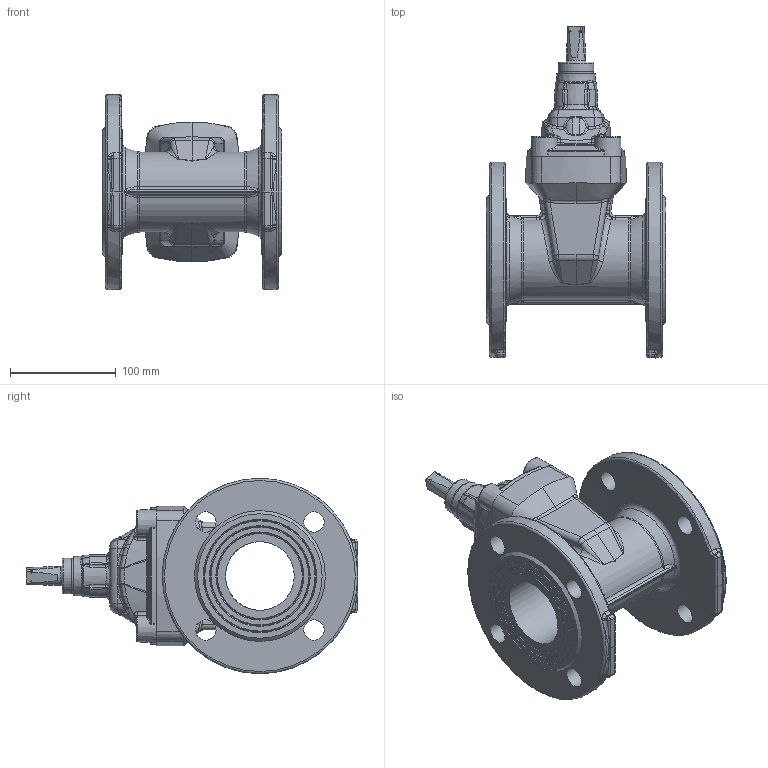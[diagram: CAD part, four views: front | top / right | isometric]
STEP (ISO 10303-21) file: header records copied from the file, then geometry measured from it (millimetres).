
FILE_DESCRIPTION(/* description */ (''),/* implementation_level */ '2;1');
FILE_NAME(/* name */ 'F4-DN65PN16.stp',/* time_stamp */ '2024-08-01T08:14:07+07:00',/* author */ ('Eva'),/* organization */ (''),/* preprocessor_version */ 'ST-DEVELOPER v20',/* originating_system */ 'Autodesk Inventor 2025',/* authorisation */ '');
FILE_SCHEMA (('AUTOMOTIVE_DESIGN { 1 0 10303 214 3 1 1 }'));
Products named in the file (7): F4-DN65PN16; ·§ёЛ DN65PN16(YZ45X99302-04-00 ); ·§ёЗ DN65PN16(YZ45X99302-02-00 Q
T450-10); Ц№НЖВЭДё DN50PN16(YZ45
X02302-09-00 ); ·АіѕГЬ·вИ¦ DN50
PN16(YZ45X02302-10-00 NBR); M10 ДЪБщЅЗФІЦщН·ВЭ¶¤ 
GB T 70.1-2000(M10ЎБ20); DN65F4·§МеГ«Еч
Assembly tree (9 placements, depth 2):
  F4-DN65PN16
    ·§ёЛ DN65PN16(YZ45X99302-04-00 )
    ·§ёЗ DN65PN16(YZ45X99302-02-00 Q
T450-10)
    Ц№НЖВЭДё DN50PN16(YZ45
X02302-09-00 )
    ·АіѕГЬ·вИ¦ DN50
PN16(YZ45X02302-10-00 NBR)
    M10 ДЪБщЅЗФІЦщН·ВЭ¶¤ 
GB T 70.1-2000(M10ЎБ20)  x4
    DN65F4·§МеГ«Еч
Bounding box: 170 x 314.7 x 185 mm (x, y, z)
Volume: 1254042 mm3; surface area: 298535.2 mm2
Topology: 9 solids, 9 shells, 1036 faces, 2461 edges, 1445 vertices
Faces by surface type: bspline 529, plane 164, cylinder 156, cone 90, torus 85, sphere 12
Full cylindrical faces by diameter (mm): 6.8 x1, 10 x4, 11.5 x4, 16.27 x4, 18 x1, 18.073 x1, 19 x1, 19.5 x8, 27 x1, 33 x1, 34 x1, 65.2 x1, 185 x2
Entity records: 61203 total; most frequent: CARTESIAN_POINT 40950, ORIENTED_EDGE 4676, DIRECTION 3459, EDGE_CURVE 2338, AXIS2_PLACEMENT_3D 1568, VERTEX_POINT 1385, EDGE_LOOP 1031, CIRCLE 1001
